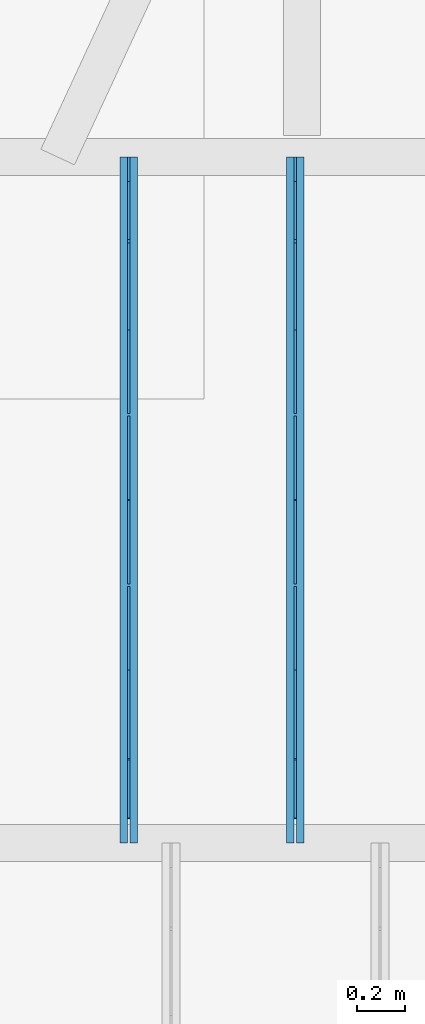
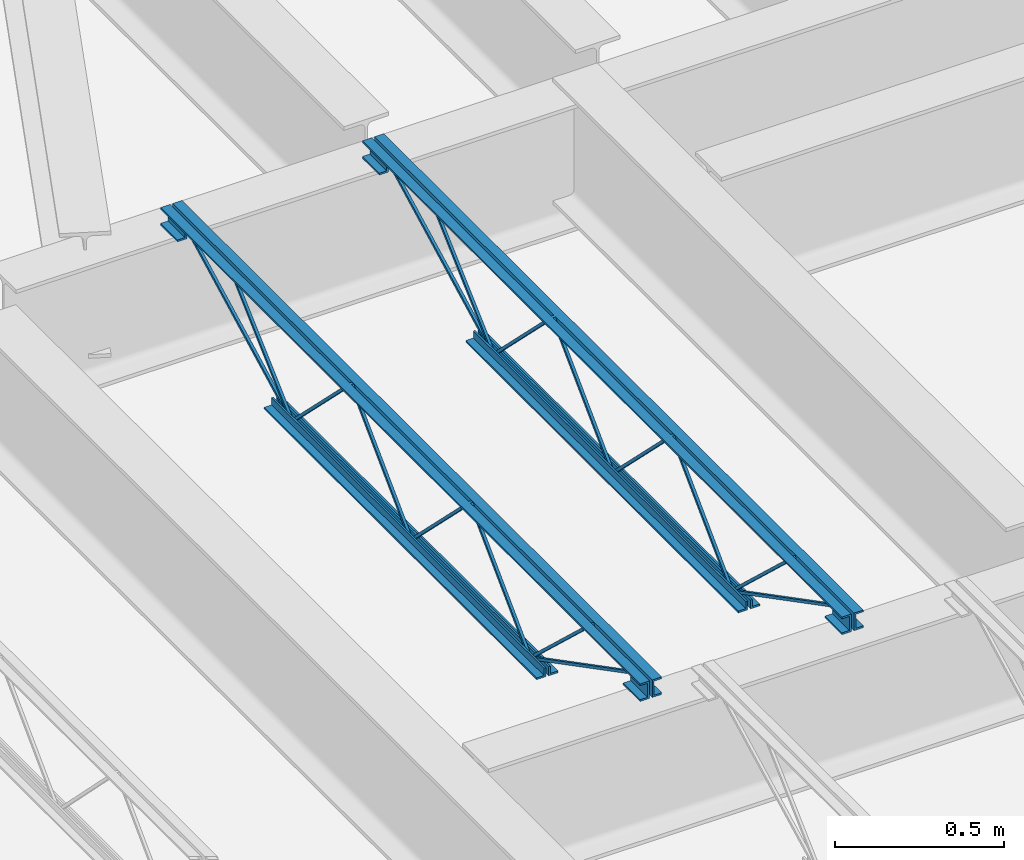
# One storey, part 56 of 75: 2 beams.
"""IFC2X3 building model written with IfcOpenShell, lengths in metres."""

from ifc_helpers import new_model, entity, si_unit, converted_unit, frame, origin, place, context, project, spatial, face_set, surface_model, element, save


model = new_model("IFC2X3")

# Units and contexts
model_context = context("Model", 3, precision=1e-09, world=origin())
plan_context = context("Plan", 3, precision=1e-09, world=origin())
ifc_project = project(units=[si_unit("LENGTHUNIT", "METRE"), si_unit("AREAUNIT", "SQUARE_METRE"), si_unit("VOLUMEUNIT", "CUBIC_METRE"), converted_unit("PLANEANGLEUNIT", "DEGREE", entity("IfcRatioMeasure", 0.01745329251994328), si_unit("PLANEANGLEUNIT", "RADIAN"), dimensions=[0, 0, 0, 0, 0, 0, 0]), si_unit("TIMEUNIT", "SECOND")], contexts=[model_context, plan_context])

# Site, building, storey
site_placement = place(None, origin())
site = spatial("IfcSite", under=ifc_project, at=site_placement, Name="Default", CompositionType="ELEMENT")
building_placement = place(site_placement, origin())
building = spatial("IfcBuilding", under=site, at=building_placement, CompositionType="ELEMENT")
storey_placement = place(building_placement, origin())
storey = spatial("IfcBuildingStorey", under=building, at=storey_placement, Name="First Floor", CompositionType="ELEMENT", Elevation=-3.531500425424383e-13)

# Beams
beam_1_placement = place(storey_placement, frame((-18.72012253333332, 25.54553029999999, 4.1120000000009), z_axis=(0.0, 0.0, 1.0), x_axis=(-1.0, 0.0, 0.0)))
element("IfcBeam", 1, at=beam_1_placement, inside=storey, Name="M_K-Series Bar Joist-Rod Web:14K1:14K1", ObjectType="M_K-Series Bar Joist-Rod Web:14K1", context=model_context, shape_type="SurfaceModel", body=[
    surface_model("IfcFaceBasedSurfaceModel", [(-0.03200000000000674, -1.417000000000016, 0.0110999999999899), (-0.04150000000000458, -1.417000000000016, 0.0110999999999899), (-0.04150000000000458, -1.417000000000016, 0.001599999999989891), (-0.03200000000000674, -1.417000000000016, 0.001599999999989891), (-0.04150000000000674, -1.415781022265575, 0.0110999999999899), (-0.03200000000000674, -1.415781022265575, 0.0110999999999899), (-0.04150000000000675, -1.411868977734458, 0.001599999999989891), (-0.04150000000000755, -1.065718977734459, 0.3448999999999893), (-0.04150000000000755, -1.063281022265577, 0.3448999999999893), (-0.04150000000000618, -0.7171310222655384, 0.001599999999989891), (-0.04150000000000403, -0.7120000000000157, 0.001599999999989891), (-0.04150000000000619, -0.7120000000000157, 0.0110999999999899), (-0.04150000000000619, -0.7132189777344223, 0.0110999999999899), (-0.04150000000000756, -1.059368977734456, 0.3543999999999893), (-0.04150000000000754, -1.069631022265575, 0.3543999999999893), (-0.03200000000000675, -1.411868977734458, 0.001599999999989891), (-0.03200000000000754, -1.065718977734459, 0.3448999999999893), (-0.03200000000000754, -1.063281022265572, 0.3448999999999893), (-0.03200000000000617, -0.717131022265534, 0.001599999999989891), (-0.03200000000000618, -0.7120000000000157, 0.001599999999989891), (-0.03200000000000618, -0.7120000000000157, 0.01109999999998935), (-0.03200000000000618, -0.7132189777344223, 0.0110999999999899), (-0.03200000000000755, -1.059368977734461, 0.3543999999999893), (-0.03200000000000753, -1.069631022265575, 0.3543999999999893), (-0.03200000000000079, -2.121999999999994, 0.01110000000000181), (-0.04149999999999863, -2.121999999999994, 0.01110000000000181), (-0.04149999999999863, -2.121999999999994, 0.001600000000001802), (-0.03200000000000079, -2.121999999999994, 0.001600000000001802), (-0.04150000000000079, -2.120781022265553, 0.01110000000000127), (-0.03200000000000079, -2.120781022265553, 0.01110000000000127), (-0.04149999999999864, -2.116868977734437, 0.001600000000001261), (-0.04149999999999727, -1.770718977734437, 0.3449000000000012), (-0.04149999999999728, -1.768281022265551, 0.3449000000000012), (-0.04149999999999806, -1.422131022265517, 0.001600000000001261), (-0.04149999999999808, -1.416999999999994, 0.001600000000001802), (-0.04149999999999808, -1.416999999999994, 0.01110000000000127), (-0.04149999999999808, -1.418218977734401, 0.01110000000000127), (-0.04149999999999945, -1.764368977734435, 0.3544000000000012), (-0.04149999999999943, -1.774631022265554, 0.3544000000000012), (-0.03199999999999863, -2.116868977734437, 0.001600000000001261), (-0.03200000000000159, -1.770718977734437, 0.3449000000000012), (-0.0320000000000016, -1.768281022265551, 0.3449000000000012), (-0.03200000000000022, -1.422131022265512, 0.001600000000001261), (-0.03200000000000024, -1.416999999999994, 0.001600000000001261), (-0.03200000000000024, -1.416999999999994, 0.01110000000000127), (-0.03200000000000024, -1.418218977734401, 0.01110000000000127), (-0.03199999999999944, -1.764368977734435, 0.3544000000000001), (-0.03199999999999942, -1.774631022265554, 0.3544000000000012), (-0.04150000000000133, 0.0, 0.3559999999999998), (-0.07350000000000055, 0.0, 0.3559999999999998), (-0.07350000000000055, 0.0, 0.349499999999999), (-0.04800000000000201, 0.0, 0.349499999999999), (-0.04800000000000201, 0.0, 0.3239999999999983), (-0.04150000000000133, 0.0, 0.3239999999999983), (-0.03200000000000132, 0.0, 0.3559999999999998), (-0.03200000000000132, 0.0, 0.3239999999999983), (-0.02550000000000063, 0.0, 0.3239999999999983), (-0.02550000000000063, 0.0, 0.349499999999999), (0.0, 0.0, 0.349499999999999), (0.0, 0.0, 0.3559999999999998), (-0.04149999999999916, -2.833999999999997, 0.3559999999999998), (-0.07349999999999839, -2.833999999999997, 0.3559999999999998), (-0.07349999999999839, -2.833999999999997, 0.349499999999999), (-0.04799999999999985, -2.833999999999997, 0.349499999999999), (-0.04799999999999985, -2.833999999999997, 0.3239999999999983), (-0.04149999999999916, -2.833999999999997, 0.3239999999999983), (-0.03199999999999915, -2.833999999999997, 0.3559999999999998), (-0.03199999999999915, -2.833999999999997, 0.3239999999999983), (-0.02549999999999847, -2.833999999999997, 0.3239999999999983), (-0.02549999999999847, -2.833999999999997, 0.349499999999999), (0.0, -2.833999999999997, 0.349499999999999), (0.0, -2.833999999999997, 0.3559999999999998), (-0.03199999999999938, -2.734000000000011, 0.2924999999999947), (0.0, -2.734000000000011, 0.2924999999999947), (0.0, -2.734000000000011, 0.2989999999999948), (-0.02549999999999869, -2.734000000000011, 0.2989999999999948), (-0.02549999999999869, -2.734000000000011, 0.3239999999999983), (-0.03199999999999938, -2.734000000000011, 0.3239999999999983), (-0.07349999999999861, -2.734000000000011, 0.2924999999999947), (-0.04149999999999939, -2.734000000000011, 0.2924999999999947), (-0.04149999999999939, -2.734000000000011, 0.3239999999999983), (-0.04800000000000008, -2.734000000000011, 0.3239999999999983), (-0.04800000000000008, -2.734000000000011, 0.2989999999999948), (-0.07349999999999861, -2.734000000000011, 0.2989999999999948), (-0.03199999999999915, -2.833999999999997, 0.2924999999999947), (0.0, -2.833999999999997, 0.2924999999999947), (0.0, -2.833999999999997, 0.2989999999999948), (-0.02549999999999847, -2.833999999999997, 0.2989999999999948), (-0.07349999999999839, -2.833999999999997, 0.2924999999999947), (-0.04149999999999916, -2.833999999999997, 0.2924999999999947), (-0.04799999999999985, -2.833999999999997, 0.2989999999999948), (-0.07349999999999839, -2.833999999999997, 0.2989999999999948), (-0.04150000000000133, 0.0, 0.2924999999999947), (-0.04799999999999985, 0.0, 0.3239999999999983), (-0.04799999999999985, 0.0, 0.2989999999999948), (-0.07350000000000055, 0.0, 0.2989999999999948), (-0.07350000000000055, 0.0, 0.2924999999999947), (-0.03200000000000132, 0.0, 0.2924999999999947), (0.0, 0.0, 0.2924999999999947), (0.0, 0.0, 0.2989999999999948), (-0.02550000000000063, 0.0, 0.2989999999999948), (-0.0415000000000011, -0.09999999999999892, 0.2924999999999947), (-0.0415000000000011, -0.09999999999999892, 0.3239999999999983), (-0.04799999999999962, -0.09999999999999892, 0.3239999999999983), (-0.04799999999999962, -0.09999999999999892, 0.2989999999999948), (-0.07350000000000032, -0.09999999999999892, 0.2989999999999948), (-0.07350000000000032, -0.09999999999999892, 0.2924999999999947), (-0.03200000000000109, -0.09999999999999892, 0.2924999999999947), (0.0, -0.09999999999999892, 0.2924999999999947), (0.0, -0.09999999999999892, 0.2989999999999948), (-0.0255000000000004, -0.09999999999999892, 0.2989999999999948), (-0.0255000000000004, -0.09999999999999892, 0.3239999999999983), (-0.03200000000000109, -0.09999999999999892, 0.3239999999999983), (-0.04149999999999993, -0.6119999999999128, 0.0), (-0.04149999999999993, -0.6119999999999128, 0.03199999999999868), (-0.04800000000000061, -0.6119999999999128, 0.03199999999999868), (-0.04800000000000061, -0.6119999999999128, 0.006499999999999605), (-0.07349999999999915, -0.6119999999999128, 0.006499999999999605), (-0.07349999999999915, -0.6119999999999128, 0.0), (-0.03199999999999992, -0.6119999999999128, 0.0), (0.0, -0.6119999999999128, 0.0), (0.0, -0.6119999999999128, 0.006499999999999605), (-0.02549999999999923, -0.6119999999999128, 0.006499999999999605), (-0.02549999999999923, -0.6119999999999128, 0.03199999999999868), (-0.03199999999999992, -0.6119999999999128, 0.03199999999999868), (-0.04150000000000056, -2.221999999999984, 0.0), (-0.04150000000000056, -2.221999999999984, 0.03199999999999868), (-0.04800000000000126, -2.221999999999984, 0.03199999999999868), (-0.04800000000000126, -2.221999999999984, 0.006499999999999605), (-0.07349999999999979, -2.221999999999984, 0.006499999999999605), (-0.07349999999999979, -2.221999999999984, 0.0), (-0.03200000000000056, -2.221999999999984, 0.0), (0.0, -2.221999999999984, 0.0), (0.0, -2.221999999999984, 0.006499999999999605), (-0.02549999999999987, -2.221999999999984, 0.006499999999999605), (-0.02549999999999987, -2.221999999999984, 0.03199999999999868), (-0.03200000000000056, -2.221999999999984, 0.03199999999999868), (-0.03199999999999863, -2.11981177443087, 0.01056594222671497), (-0.04149999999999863, -2.11981177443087, 0.01056594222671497), (-0.04149999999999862, -2.124188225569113, 0.002134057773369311), (-0.03200000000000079, -2.124188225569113, 0.002134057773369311), (-0.03199999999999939, -2.732840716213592, 0.3287499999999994), (-0.03199999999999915, -2.833999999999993, 0.3287499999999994), (-0.03199999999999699, -2.833999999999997, 0.3192499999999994), (-0.03199999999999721, -2.735159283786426, 0.3192499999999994), (-0.04149999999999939, -2.73515928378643, 0.3192499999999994), (-0.04149999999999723, -2.732840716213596, 0.3287499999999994), (-0.041499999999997, -2.833999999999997, 0.3287499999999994), (-0.04149999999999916, -2.833999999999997, 0.3192499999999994), (-0.03199999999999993, -2.494457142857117, 0.341700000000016), (-0.04149999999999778, -2.494457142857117, 0.341700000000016), (-0.04149999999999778, -2.494457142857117, 0.332200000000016), (-0.03199999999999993, -2.494457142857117, 0.332200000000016), (-0.04149999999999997, -2.479906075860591, 0.341700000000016), (-0.03199999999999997, -2.479906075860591, 0.341700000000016), (-0.0414999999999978, -2.483608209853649, 0.332200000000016), (-0.04149999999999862, -2.125214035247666, 0.00285250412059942), (-0.04149999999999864, -2.118785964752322, 0.00984749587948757), (-0.03199999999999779, -2.483608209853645, 0.332200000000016), (-0.03200000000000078, -2.125214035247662, 0.002852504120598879), (-0.03199999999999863, -2.118785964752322, 0.00984749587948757), (-0.03199999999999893, -0.0978117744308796, 0.3197840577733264), (-0.03200000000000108, -0.1021882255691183, 0.3282159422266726), (-0.04150000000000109, -0.1021882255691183, 0.3282159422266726), (-0.04149999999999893, -0.0978117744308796, 0.3197840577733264), (-0.03199999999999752, -0.7098117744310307, 0.002134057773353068), (-0.03199999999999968, -0.7141882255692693, 0.01056594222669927), (-0.04149999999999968, -0.7141882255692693, 0.01056594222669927), (-0.04149999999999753, -0.7098117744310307, 0.002134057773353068), (-0.03199999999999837, -0.341740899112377, 0.3461810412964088), (-0.03200000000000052, -0.3482305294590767, 0.3531189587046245), (-0.04150000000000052, -0.3482305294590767, 0.3531189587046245), (-0.04149999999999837, -0.341740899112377, 0.3461810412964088), (-0.03199999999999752, -0.7087551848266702, 0.002881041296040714), (-0.03199999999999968, -0.7152448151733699, 0.009818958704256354), (-0.04149999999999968, -0.7152448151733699, 0.009818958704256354), (-0.04149999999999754, -0.7087551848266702, 0.002881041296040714)], [face_set([[[0, 1, 2, 3]], [[1, 4, 5, 0]], [[2, 6, 7, 8, 9, 10, 11, 12, 13, 14, 4, 1]], [[3, 2, 6, 15]], [[0, 3, 15, 16, 17, 18, 19, 20, 21, 22, 23, 5]], [[4, 5, 23, 14]], [[15, 16, 7, 6]], [[14, 13, 22, 23]], [[16, 7, 8, 17]], [[13, 12, 21, 22]], [[17, 8, 9, 18]], [[20, 11, 10, 19]], [[12, 11, 20, 21]], [[18, 9, 10, 19]]]), face_set([[[24, 25, 26, 27]], [[25, 28, 29, 24]], [[26, 30, 31, 32, 33, 34, 35, 36, 37, 38, 28, 25]], [[27, 26, 30, 39]], [[24, 27, 39, 40, 41, 42, 43, 44, 45, 46, 47, 29]], [[28, 29, 47, 38]], [[39, 40, 31, 30]], [[38, 37, 46, 47]], [[40, 31, 32, 41]], [[37, 36, 45, 46]], [[41, 32, 33, 42]], [[44, 35, 34, 43]], [[36, 35, 44, 45]], [[42, 33, 34, 43]]]), face_set([[[48, 49, 50, 51, 52, 53]], [[54, 55, 56, 57, 58, 59]], [[60, 61, 62, 63, 64, 65]], [[66, 67, 68, 69, 70, 71]], [[53, 48, 60, 65]], [[52, 53, 65, 64]], [[51, 63, 64, 52]], [[50, 51, 63, 62]], [[49, 61, 62, 50]], [[48, 60, 61, 49]], [[59, 71, 66, 54]], [[58, 59, 71, 70]], [[57, 58, 70, 69]], [[56, 57, 69, 68]], [[55, 56, 68, 67]], [[54, 66, 67, 55]]]), face_set([[[72, 73, 74, 75, 76, 77]], [[78, 79, 80, 81, 82, 83]], [[84, 85, 86, 87, 68, 67]], [[88, 89, 65, 64, 90, 91]], [[77, 67, 84, 72]], [[76, 68, 67, 77]], [[75, 76, 68, 87]], [[74, 86, 87, 75]], [[73, 74, 86, 85]], [[72, 73, 85, 84]], [[83, 91, 88, 78]], [[82, 90, 91, 83]], [[81, 64, 90, 82]], [[80, 65, 64, 81]], [[79, 80, 65, 89]], [[78, 79, 89, 88]]]), face_set([[[92, 53, 93, 94, 95, 96]], [[97, 98, 99, 100, 56, 55]], [[101, 102, 103, 104, 105, 106]], [[107, 108, 109, 110, 111, 112]], [[96, 92, 101, 106]], [[95, 105, 106, 96]], [[94, 104, 105, 95]], [[93, 103, 104, 94]], [[53, 102, 103, 93]], [[92, 53, 102, 101]], [[55, 112, 107, 97]], [[56, 111, 112, 55]], [[100, 56, 111, 110]], [[99, 109, 110, 100]], [[98, 99, 109, 108]], [[97, 98, 108, 107]]]), face_set([[[113, 114, 115, 116, 117, 118]], [[119, 120, 121, 122, 123, 124]], [[125, 126, 127, 128, 129, 130]], [[131, 132, 133, 134, 135, 136]], [[118, 113, 125, 130]], [[117, 129, 130, 118]], [[116, 128, 129, 117]], [[115, 127, 128, 116]], [[114, 126, 127, 115]], [[113, 114, 126, 125]], [[124, 136, 131, 119]], [[123, 135, 136, 124]], [[122, 123, 135, 134]], [[121, 133, 134, 122]], [[120, 121, 133, 132]], [[119, 120, 132, 131]]]), face_set([[[137, 138, 139, 140]], [[140, 137, 141, 142, 143, 144]], [[139, 140, 144, 145]], [[138, 146, 147, 148, 145, 139]], [[137, 141, 146, 138]], [[142, 147, 148, 143]], [[145, 144, 143, 148]], [[141, 142, 147, 146]]]), face_set([[[149, 150, 151, 152]], [[150, 153, 154, 149]], [[151, 155, 156, 157, 153, 150]], [[152, 151, 155, 158]], [[149, 152, 158, 159, 160, 154]], [[160, 157, 156, 159]], [[153, 157, 160, 154]], [[158, 155, 156, 159]]]), face_set([[[161, 162, 163, 164]], [[165, 166, 167, 168]], [[164, 168, 165, 161]], [[163, 167, 168, 164]], [[162, 163, 167, 166]], [[161, 162, 166, 165]]]), face_set([[[169, 170, 171, 172]], [[173, 174, 175, 176]], [[172, 176, 173, 169]], [[171, 175, 176, 172]], [[170, 171, 175, 174]], [[169, 170, 174, 173]]])]),
])
beam_2_placement = place(storey_placement, frame((-19.40843626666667, 25.54553029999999, 4.1120000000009), z_axis=(0.0, 0.0, 1.0), x_axis=(-1.0, 0.0, 0.0)))
element("IfcBeam", 2, at=beam_2_placement, inside=storey, Name="M_K-Series Bar Joist-Rod Web:14K1:14K1", ObjectType="M_K-Series Bar Joist-Rod Web:14K1", context=model_context, shape_type="SurfaceModel", body=[
    surface_model("IfcFaceBasedSurfaceModel", [(-0.03200000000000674, -1.417000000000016, 0.0110999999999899), (-0.04150000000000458, -1.417000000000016, 0.0110999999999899), (-0.04150000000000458, -1.417000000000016, 0.001599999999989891), (-0.03200000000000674, -1.417000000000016, 0.001599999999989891), (-0.04150000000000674, -1.415781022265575, 0.0110999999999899), (-0.03200000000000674, -1.415781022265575, 0.0110999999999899), (-0.04150000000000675, -1.411868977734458, 0.001599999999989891), (-0.04150000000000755, -1.065718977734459, 0.3448999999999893), (-0.04150000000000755, -1.063281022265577, 0.3448999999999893), (-0.04150000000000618, -0.7171310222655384, 0.001599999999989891), (-0.04150000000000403, -0.7120000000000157, 0.001599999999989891), (-0.04150000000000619, -0.7120000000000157, 0.0110999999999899), (-0.04150000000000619, -0.7132189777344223, 0.0110999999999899), (-0.04150000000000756, -1.059368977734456, 0.3543999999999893), (-0.04150000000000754, -1.069631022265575, 0.3543999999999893), (-0.03200000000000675, -1.411868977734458, 0.001599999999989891), (-0.03200000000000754, -1.065718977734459, 0.3448999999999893), (-0.03200000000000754, -1.063281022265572, 0.3448999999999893), (-0.03200000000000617, -0.717131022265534, 0.001599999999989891), (-0.03200000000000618, -0.7120000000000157, 0.001599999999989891), (-0.03200000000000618, -0.7120000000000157, 0.01109999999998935), (-0.03200000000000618, -0.7132189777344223, 0.0110999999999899), (-0.03200000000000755, -1.059368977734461, 0.3543999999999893), (-0.03200000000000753, -1.069631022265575, 0.3543999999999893), (-0.03200000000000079, -2.121999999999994, 0.01110000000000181), (-0.04149999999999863, -2.121999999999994, 0.01110000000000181), (-0.04149999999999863, -2.121999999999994, 0.001600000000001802), (-0.03200000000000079, -2.121999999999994, 0.001600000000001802), (-0.04150000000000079, -2.120781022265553, 0.01110000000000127), (-0.03200000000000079, -2.120781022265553, 0.01110000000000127), (-0.04149999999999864, -2.116868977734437, 0.001600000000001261), (-0.04149999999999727, -1.770718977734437, 0.3449000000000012), (-0.04149999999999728, -1.768281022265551, 0.3449000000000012), (-0.04149999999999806, -1.422131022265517, 0.001600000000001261), (-0.04149999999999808, -1.416999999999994, 0.001600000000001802), (-0.04149999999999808, -1.416999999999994, 0.01110000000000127), (-0.04149999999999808, -1.418218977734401, 0.01110000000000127), (-0.04149999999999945, -1.764368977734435, 0.3544000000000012), (-0.04149999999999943, -1.774631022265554, 0.3544000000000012), (-0.03199999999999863, -2.116868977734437, 0.001600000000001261), (-0.03200000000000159, -1.770718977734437, 0.3449000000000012), (-0.0320000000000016, -1.768281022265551, 0.3449000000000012), (-0.03200000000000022, -1.422131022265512, 0.001600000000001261), (-0.03200000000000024, -1.416999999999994, 0.001600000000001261), (-0.03200000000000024, -1.416999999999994, 0.01110000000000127), (-0.03200000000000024, -1.418218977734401, 0.01110000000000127), (-0.03199999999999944, -1.764368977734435, 0.3544000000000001), (-0.03199999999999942, -1.774631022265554, 0.3544000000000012), (-0.04150000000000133, 0.0, 0.3559999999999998), (-0.07350000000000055, 0.0, 0.3559999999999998), (-0.07350000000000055, 0.0, 0.349499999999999), (-0.04800000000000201, 0.0, 0.349499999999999), (-0.04800000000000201, 0.0, 0.3239999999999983), (-0.04150000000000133, 0.0, 0.3239999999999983), (-0.03200000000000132, 0.0, 0.3559999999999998), (-0.03200000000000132, 0.0, 0.3239999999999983), (-0.02550000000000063, 0.0, 0.3239999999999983), (-0.02550000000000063, 0.0, 0.349499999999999), (0.0, 0.0, 0.349499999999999), (0.0, 0.0, 0.3559999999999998), (-0.04149999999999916, -2.833999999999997, 0.3559999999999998), (-0.07349999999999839, -2.833999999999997, 0.3559999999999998), (-0.07349999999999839, -2.833999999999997, 0.349499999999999), (-0.04799999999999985, -2.833999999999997, 0.349499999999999), (-0.04799999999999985, -2.833999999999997, 0.3239999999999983), (-0.04149999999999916, -2.833999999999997, 0.3239999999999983), (-0.03199999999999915, -2.833999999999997, 0.3559999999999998), (-0.03199999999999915, -2.833999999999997, 0.3239999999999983), (-0.02549999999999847, -2.833999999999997, 0.3239999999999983), (-0.02549999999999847, -2.833999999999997, 0.349499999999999), (0.0, -2.833999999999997, 0.349499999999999), (0.0, -2.833999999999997, 0.3559999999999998), (-0.03199999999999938, -2.734000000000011, 0.2924999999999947), (0.0, -2.734000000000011, 0.2924999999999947), (0.0, -2.734000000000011, 0.2989999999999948), (-0.02549999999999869, -2.734000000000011, 0.2989999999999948), (-0.02549999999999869, -2.734000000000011, 0.3239999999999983), (-0.03199999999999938, -2.734000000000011, 0.3239999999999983), (-0.07349999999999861, -2.734000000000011, 0.2924999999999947), (-0.04149999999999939, -2.734000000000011, 0.2924999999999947), (-0.04149999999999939, -2.734000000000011, 0.3239999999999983), (-0.04800000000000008, -2.734000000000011, 0.3239999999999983), (-0.04800000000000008, -2.734000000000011, 0.2989999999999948), (-0.07349999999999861, -2.734000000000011, 0.2989999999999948), (-0.03199999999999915, -2.833999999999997, 0.2924999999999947), (0.0, -2.833999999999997, 0.2924999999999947), (0.0, -2.833999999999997, 0.2989999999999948), (-0.02549999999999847, -2.833999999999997, 0.2989999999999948), (-0.07349999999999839, -2.833999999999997, 0.2924999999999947), (-0.04149999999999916, -2.833999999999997, 0.2924999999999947), (-0.04799999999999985, -2.833999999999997, 0.2989999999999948), (-0.07349999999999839, -2.833999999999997, 0.2989999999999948), (-0.04150000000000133, 0.0, 0.2924999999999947), (-0.04799999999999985, 0.0, 0.3239999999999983), (-0.04799999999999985, 0.0, 0.2989999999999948), (-0.07350000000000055, 0.0, 0.2989999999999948), (-0.07350000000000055, 0.0, 0.2924999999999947), (-0.03200000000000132, 0.0, 0.2924999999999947), (0.0, 0.0, 0.2924999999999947), (0.0, 0.0, 0.2989999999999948), (-0.02550000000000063, 0.0, 0.2989999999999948), (-0.0415000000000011, -0.09999999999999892, 0.2924999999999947), (-0.0415000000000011, -0.09999999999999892, 0.3239999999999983), (-0.04799999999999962, -0.09999999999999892, 0.3239999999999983), (-0.04799999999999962, -0.09999999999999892, 0.2989999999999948), (-0.07350000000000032, -0.09999999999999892, 0.2989999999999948), (-0.07350000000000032, -0.09999999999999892, 0.2924999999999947), (-0.03200000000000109, -0.09999999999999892, 0.2924999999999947), (0.0, -0.09999999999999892, 0.2924999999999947), (0.0, -0.09999999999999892, 0.2989999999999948), (-0.0255000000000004, -0.09999999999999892, 0.2989999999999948), (-0.0255000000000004, -0.09999999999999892, 0.3239999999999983), (-0.03200000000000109, -0.09999999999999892, 0.3239999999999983), (-0.04149999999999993, -0.6119999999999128, 0.0), (-0.04149999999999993, -0.6119999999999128, 0.03199999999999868), (-0.04800000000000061, -0.6119999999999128, 0.03199999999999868), (-0.04800000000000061, -0.6119999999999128, 0.006499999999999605), (-0.07349999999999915, -0.6119999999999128, 0.006499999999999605), (-0.07349999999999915, -0.6119999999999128, 0.0), (-0.03199999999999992, -0.6119999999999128, 0.0), (0.0, -0.6119999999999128, 0.0), (0.0, -0.6119999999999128, 0.006499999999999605), (-0.02549999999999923, -0.6119999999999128, 0.006499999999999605), (-0.02549999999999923, -0.6119999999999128, 0.03199999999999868), (-0.03199999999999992, -0.6119999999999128, 0.03199999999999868), (-0.04150000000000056, -2.221999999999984, 0.0), (-0.04150000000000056, -2.221999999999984, 0.03199999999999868), (-0.04800000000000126, -2.221999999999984, 0.03199999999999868), (-0.04800000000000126, -2.221999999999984, 0.006499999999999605), (-0.07349999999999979, -2.221999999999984, 0.006499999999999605), (-0.07349999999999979, -2.221999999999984, 0.0), (-0.03200000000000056, -2.221999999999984, 0.0), (0.0, -2.221999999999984, 0.0), (0.0, -2.221999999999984, 0.006499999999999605), (-0.02549999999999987, -2.221999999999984, 0.006499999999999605), (-0.02549999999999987, -2.221999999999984, 0.03199999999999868), (-0.03200000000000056, -2.221999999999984, 0.03199999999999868), (-0.03199999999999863, -2.11981177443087, 0.01056594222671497), (-0.04149999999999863, -2.11981177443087, 0.01056594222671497), (-0.04149999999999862, -2.124188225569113, 0.002134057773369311), (-0.03200000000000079, -2.124188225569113, 0.002134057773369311), (-0.03199999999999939, -2.732840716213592, 0.3287499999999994), (-0.03199999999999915, -2.833999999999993, 0.3287499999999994), (-0.03199999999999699, -2.833999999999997, 0.3192499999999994), (-0.03199999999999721, -2.735159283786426, 0.3192499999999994), (-0.04149999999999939, -2.73515928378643, 0.3192499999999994), (-0.04149999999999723, -2.732840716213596, 0.3287499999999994), (-0.041499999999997, -2.833999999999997, 0.3287499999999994), (-0.04149999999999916, -2.833999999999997, 0.3192499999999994), (-0.03199999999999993, -2.494457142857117, 0.341700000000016), (-0.04149999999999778, -2.494457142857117, 0.341700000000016), (-0.04149999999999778, -2.494457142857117, 0.332200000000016), (-0.03199999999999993, -2.494457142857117, 0.332200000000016), (-0.04149999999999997, -2.479906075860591, 0.341700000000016), (-0.03199999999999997, -2.479906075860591, 0.341700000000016), (-0.0414999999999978, -2.483608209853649, 0.332200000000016), (-0.04149999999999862, -2.125214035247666, 0.00285250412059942), (-0.04149999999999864, -2.118785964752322, 0.00984749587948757), (-0.03199999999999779, -2.483608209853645, 0.332200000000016), (-0.03200000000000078, -2.125214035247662, 0.002852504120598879), (-0.03199999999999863, -2.118785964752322, 0.00984749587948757), (-0.03199999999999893, -0.0978117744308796, 0.3197840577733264), (-0.03200000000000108, -0.1021882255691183, 0.3282159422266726), (-0.04150000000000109, -0.1021882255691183, 0.3282159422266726), (-0.04149999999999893, -0.0978117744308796, 0.3197840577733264), (-0.03199999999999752, -0.7098117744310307, 0.002134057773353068), (-0.03199999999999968, -0.7141882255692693, 0.01056594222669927), (-0.04149999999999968, -0.7141882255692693, 0.01056594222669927), (-0.04149999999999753, -0.7098117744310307, 0.002134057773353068), (-0.03199999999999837, -0.341740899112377, 0.3461810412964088), (-0.03200000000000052, -0.3482305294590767, 0.3531189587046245), (-0.04150000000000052, -0.3482305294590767, 0.3531189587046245), (-0.04149999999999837, -0.341740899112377, 0.3461810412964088), (-0.03199999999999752, -0.7087551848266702, 0.002881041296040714), (-0.03199999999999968, -0.7152448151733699, 0.009818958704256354), (-0.04149999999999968, -0.7152448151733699, 0.009818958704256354), (-0.04149999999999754, -0.7087551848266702, 0.002881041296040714)], [face_set([[[0, 1, 2, 3]], [[1, 4, 5, 0]], [[2, 6, 7, 8, 9, 10, 11, 12, 13, 14, 4, 1]], [[3, 2, 6, 15]], [[0, 3, 15, 16, 17, 18, 19, 20, 21, 22, 23, 5]], [[4, 5, 23, 14]], [[15, 16, 7, 6]], [[14, 13, 22, 23]], [[16, 7, 8, 17]], [[13, 12, 21, 22]], [[17, 8, 9, 18]], [[20, 11, 10, 19]], [[12, 11, 20, 21]], [[18, 9, 10, 19]]]), face_set([[[24, 25, 26, 27]], [[25, 28, 29, 24]], [[26, 30, 31, 32, 33, 34, 35, 36, 37, 38, 28, 25]], [[27, 26, 30, 39]], [[24, 27, 39, 40, 41, 42, 43, 44, 45, 46, 47, 29]], [[28, 29, 47, 38]], [[39, 40, 31, 30]], [[38, 37, 46, 47]], [[40, 31, 32, 41]], [[37, 36, 45, 46]], [[41, 32, 33, 42]], [[44, 35, 34, 43]], [[36, 35, 44, 45]], [[42, 33, 34, 43]]]), face_set([[[48, 49, 50, 51, 52, 53]], [[54, 55, 56, 57, 58, 59]], [[60, 61, 62, 63, 64, 65]], [[66, 67, 68, 69, 70, 71]], [[53, 48, 60, 65]], [[52, 53, 65, 64]], [[51, 63, 64, 52]], [[50, 51, 63, 62]], [[49, 61, 62, 50]], [[48, 60, 61, 49]], [[59, 71, 66, 54]], [[58, 59, 71, 70]], [[57, 58, 70, 69]], [[56, 57, 69, 68]], [[55, 56, 68, 67]], [[54, 66, 67, 55]]]), face_set([[[72, 73, 74, 75, 76, 77]], [[78, 79, 80, 81, 82, 83]], [[84, 85, 86, 87, 68, 67]], [[88, 89, 65, 64, 90, 91]], [[77, 67, 84, 72]], [[76, 68, 67, 77]], [[75, 76, 68, 87]], [[74, 86, 87, 75]], [[73, 74, 86, 85]], [[72, 73, 85, 84]], [[83, 91, 88, 78]], [[82, 90, 91, 83]], [[81, 64, 90, 82]], [[80, 65, 64, 81]], [[79, 80, 65, 89]], [[78, 79, 89, 88]]]), face_set([[[92, 53, 93, 94, 95, 96]], [[97, 98, 99, 100, 56, 55]], [[101, 102, 103, 104, 105, 106]], [[107, 108, 109, 110, 111, 112]], [[96, 92, 101, 106]], [[95, 105, 106, 96]], [[94, 104, 105, 95]], [[93, 103, 104, 94]], [[53, 102, 103, 93]], [[92, 53, 102, 101]], [[55, 112, 107, 97]], [[56, 111, 112, 55]], [[100, 56, 111, 110]], [[99, 109, 110, 100]], [[98, 99, 109, 108]], [[97, 98, 108, 107]]]), face_set([[[113, 114, 115, 116, 117, 118]], [[119, 120, 121, 122, 123, 124]], [[125, 126, 127, 128, 129, 130]], [[131, 132, 133, 134, 135, 136]], [[118, 113, 125, 130]], [[117, 129, 130, 118]], [[116, 128, 129, 117]], [[115, 127, 128, 116]], [[114, 126, 127, 115]], [[113, 114, 126, 125]], [[124, 136, 131, 119]], [[123, 135, 136, 124]], [[122, 123, 135, 134]], [[121, 133, 134, 122]], [[120, 121, 133, 132]], [[119, 120, 132, 131]]]), face_set([[[137, 138, 139, 140]], [[140, 137, 141, 142, 143, 144]], [[139, 140, 144, 145]], [[138, 146, 147, 148, 145, 139]], [[137, 141, 146, 138]], [[142, 147, 148, 143]], [[145, 144, 143, 148]], [[141, 142, 147, 146]]]), face_set([[[149, 150, 151, 152]], [[150, 153, 154, 149]], [[151, 155, 156, 157, 153, 150]], [[152, 151, 155, 158]], [[149, 152, 158, 159, 160, 154]], [[160, 157, 156, 159]], [[153, 157, 160, 154]], [[158, 155, 156, 159]]]), face_set([[[161, 162, 163, 164]], [[165, 166, 167, 168]], [[164, 168, 165, 161]], [[163, 167, 168, 164]], [[162, 163, 167, 166]], [[161, 162, 166, 165]]]), face_set([[[169, 170, 171, 172]], [[173, 174, 175, 176]], [[172, 176, 173, 169]], [[171, 175, 176, 172]], [[170, 171, 175, 174]], [[169, 170, 174, 173]]])]),
])

save(model, "model.ifc")
